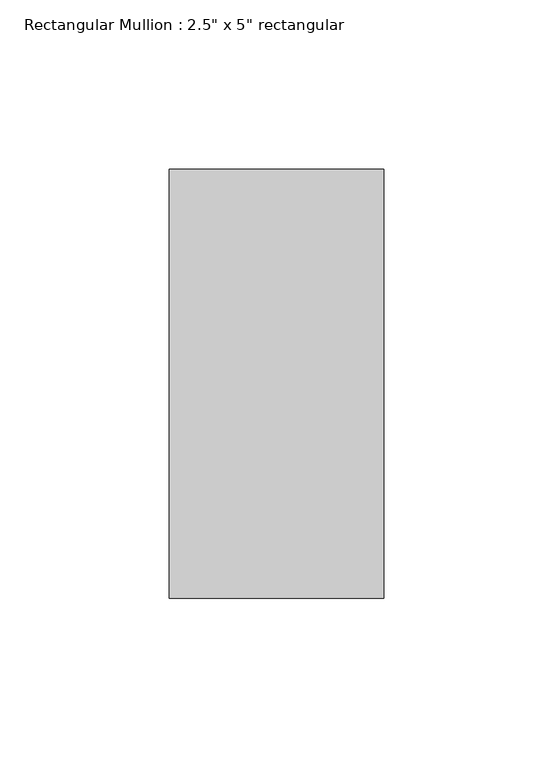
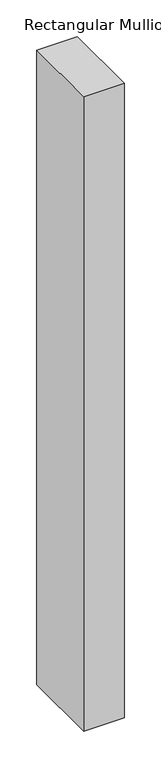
"""IFC4 building model written with IfcOpenShell, lengths in millimetres: member geometry."""

from ifc_helpers import new_model, si_unit, frame, origin, place, context, project, spatial, polyline, outline, extrude, source, transform, mapped, element, save


def member_9c3245fa(model_context):
    return source(origin(), model_context, "Body", "SweptSolid", [
        extrude(outline(polyline([(0.0, 63.5), (0.0, -63.5), (-63.5, -63.5), (-63.5, 63.5), (0.0, 63.5)])), frame((0.0, 0.0, -1051.3013389), z_axis=(0.0, 0.0, 1.0), x_axis=(1.0, 0.0, 0.0)), (0.0, 0.0, 1.0), 1051.3013389),
    ])


if __name__ == "__main__":
    model = new_model("IFC4")
    model_context = context("Model", 3, world=origin())
    ifc_project = project(units=[si_unit("LENGTHUNIT", "METRE", prefix="MILLI")], contexts=[model_context])
    site = spatial("IfcSite", under=ifc_project)
    building = spatial("IfcBuilding", under=site)
    placement = place(None, origin())
    member_shape = member_9c3245fa(model_context)
    element("IfcMember", 1, ObjectType="Rectangular Mullion : 2.5\" x 5\" rectangular", at=placement, inside=building, context=model_context, shape_type="MappedRepresentation", body=[
        mapped(member_shape, transform((0.0, 0.0, 0.0), x_axis=(1.0, 0.0, 0.0), y_axis=(0.0, 1.0, 0.0), z_axis=(0.0, 0.0, 1.0))),
    ])
    save(model, "model.ifc")
